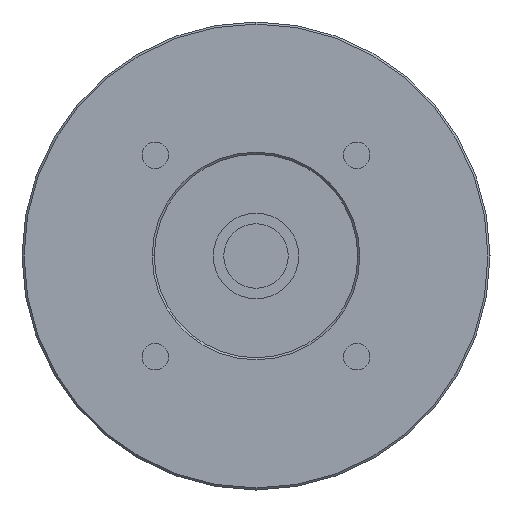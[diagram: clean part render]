
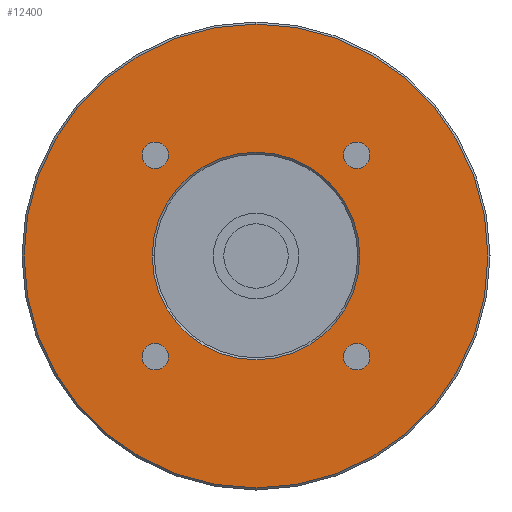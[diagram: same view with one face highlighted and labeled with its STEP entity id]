
A CAD part, left-side view. The second image highlights one B-rep face of the part: STEP entity #12400.
In plain terms, the highlighted planar face has unit normal (-1, 0, 0) as drawn and (0, 0, -1) by its records, which use the part's own axes.
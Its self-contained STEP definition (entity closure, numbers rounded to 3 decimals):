
#9260=CARTESIAN_POINT('',(27.999,24.749,-47.4));
#9270=VERTEX_POINT('',#9260);
#9300=CARTESIAN_POINT('',(24.749,24.749,-47.4));
#9310=DIRECTION('',(0.,0.,-1.));
#9320=DIRECTION('',(1.,0.,0.));
#9330=AXIS2_PLACEMENT_3D('',#9300,#9310,#9320);
#9340=CIRCLE('',#9330,3.25);
#9350=CARTESIAN_POINT('',(21.499,24.749,-47.4));
#9360=VERTEX_POINT('',#9350);
#9370=EDGE_CURVE('',#9360,#9270,#9340,.T.);
#11330=CARTESIAN_POINT('',(0.,57.,-47.4));
#11340=VERTEX_POINT('',#11330);
#11370=CARTESIAN_POINT('',(0.,0.,
-47.4));
#11380=DIRECTION('',(0.,0.,-1.));
#11390=DIRECTION('',(1.,0.,0.));
#11400=AXIS2_PLACEMENT_3D('',#11370,#11380,#11390);
#11410=CIRCLE('',#11400,57.);
#11420=CARTESIAN_POINT('',(57.,0.,-47.4));
#11430=VERTEX_POINT('',#11420);
#11440=EDGE_CURVE('',#11340,#11430,#11410,.T.);
#11460=CARTESIAN_POINT('',(0.,-57.,-47.4));
#11470=VERTEX_POINT('',#11460);
#11480=EDGE_CURVE('',#11430,#11470,#11410,.T.);
#11640=CARTESIAN_POINT('',(0.,0.,
-47.4));
#11650=DIRECTION('',(0.,0.,-1.));
#11660=DIRECTION('',(1.,0.,0.));
#11670=AXIS2_PLACEMENT_3D('',#11640,#11650,#11660);
#11680=PLANE('',#11670);
#11690=EDGE_CURVE('',#11470,#11340,#11410,.T.);
#11700=ORIENTED_EDGE('',*,*,#11690,.T.);
#11710=ORIENTED_EDGE('',*,*,#11480,.T.);
#11720=ORIENTED_EDGE('',*,*,#11440,.T.);
#11730=EDGE_LOOP('',(#11720,#11710,#11700));
#11740=FACE_OUTER_BOUND('',#11730,.T.);
#11750=CARTESIAN_POINT('',(0.,0.,
-47.4));
#11760=DIRECTION('',(0.,0.,-1.));
#11770=DIRECTION('',(1.,0.,0.));
#11780=AXIS2_PLACEMENT_3D('',#11750,#11760,#11770);
#11790=CIRCLE('',#11780,25.5);
#11800=CARTESIAN_POINT('',(25.5,0.,-47.4));
#11810=VERTEX_POINT('',#11800);
#11820=CARTESIAN_POINT('',(-25.5,0.,-47.4));
#11830=VERTEX_POINT('',#11820);
#11840=EDGE_CURVE('',#11810,#11830,#11790,.T.);
#11850=ORIENTED_EDGE('',*,*,#11840,.F.);
#11860=EDGE_CURVE('',#11830,#11810,#11790,.T.);
#11870=ORIENTED_EDGE('',*,*,#11860,.F.);
#11880=EDGE_LOOP('',(#11870,#11850));
#11890=FACE_BOUND('',#11880,.T.);
#11900=CARTESIAN_POINT('',(24.749,-24.749,-47.4));
#11910=DIRECTION('',(0.,0.,-1.));
#11920=DIRECTION('',(1.,0.,0.));
#11930=AXIS2_PLACEMENT_3D('',#11900,#11910,#11920);
#11940=CIRCLE('',#11930,3.25);
#11950=CARTESIAN_POINT('',(27.999,-24.749,-47.4));
#11960=VERTEX_POINT('',#11950);
#11970=CARTESIAN_POINT('',(21.499,-24.749,-47.4));
#11980=VERTEX_POINT('',#11970);
#11990=EDGE_CURVE('',#11960,#11980,#11940,.T.);
#12000=ORIENTED_EDGE('',*,*,#11990,.F.);
#12010=EDGE_CURVE('',#11980,#11960,#11940,.T.);
#12020=ORIENTED_EDGE('',*,*,#12010,.F.);
#12030=EDGE_LOOP('',(#12020,#12000));
#12040=FACE_BOUND('',#12030,.T.);
#12050=EDGE_CURVE('',#9270,#9360,#9340,.T.);
#12060=ORIENTED_EDGE('',*,*,#12050,.F.);
#12070=ORIENTED_EDGE('',*,*,#9370,.F.);
#12080=EDGE_LOOP('',(#12070,#12060));
#12090=FACE_BOUND('',#12080,.T.);
#12100=CARTESIAN_POINT('',(-24.749,24.749,-47.4));
#12110=DIRECTION('',(0.,0.,-1.));
#12120=DIRECTION('',(1.,0.,0.));
#12130=AXIS2_PLACEMENT_3D('',#12100,#12110,#12120);
#12140=CIRCLE('',#12130,3.25);
#12150=CARTESIAN_POINT('',(-21.499,24.749,-47.4));
#12160=VERTEX_POINT('',#12150);
#12170=CARTESIAN_POINT('',(-27.999,24.749,-47.4));
#12180=VERTEX_POINT('',#12170);
#12190=EDGE_CURVE('',#12160,#12180,#12140,.T.);
#12200=ORIENTED_EDGE('',*,*,#12190,.F.);
#12210=EDGE_CURVE('',#12180,#12160,#12140,.T.);
#12220=ORIENTED_EDGE('',*,*,#12210,.F.);
#12230=EDGE_LOOP('',(#12220,#12200));
#12240=FACE_BOUND('',#12230,.T.);
#12250=CARTESIAN_POINT('',(-24.749,-24.749,-47.4));
#12260=DIRECTION('',(0.,0.,-1.));
#12270=DIRECTION('',(1.,0.,0.));
#12280=AXIS2_PLACEMENT_3D('',#12250,#12260,#12270);
#12290=CIRCLE('',#12280,3.25);
#12300=CARTESIAN_POINT('',(-21.499,-24.749,-47.4));
#12310=VERTEX_POINT('',#12300);
#12320=CARTESIAN_POINT('',(-27.999,-24.749,-47.4));
#12330=VERTEX_POINT('',#12320);
#12340=EDGE_CURVE('',#12310,#12330,#12290,.T.);
#12350=ORIENTED_EDGE('',*,*,#12340,.F.);
#12360=EDGE_CURVE('',#12330,#12310,#12290,.T.);
#12370=ORIENTED_EDGE('',*,*,#12360,.F.);
#12380=EDGE_LOOP('',(#12370,#12350));
#12390=FACE_BOUND('',#12380,.T.);
#12400=ADVANCED_FACE('',(#11740,#11890,#12040,#12090,#12240,#12390),
#11680,.T.);
